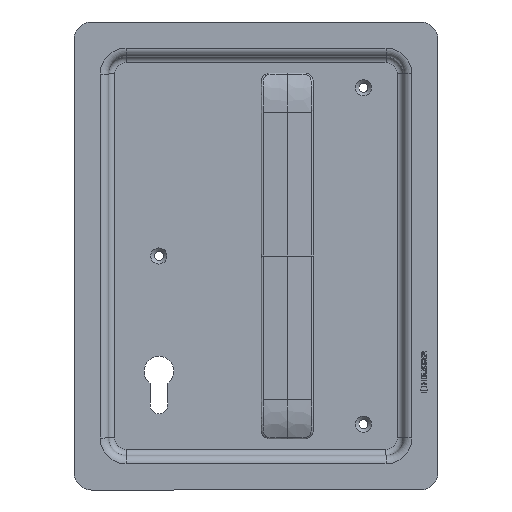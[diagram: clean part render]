
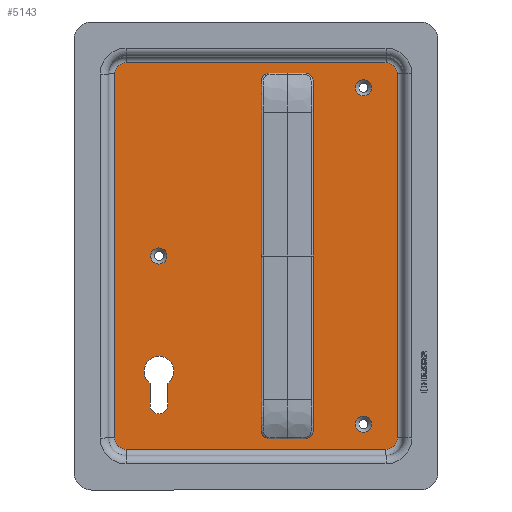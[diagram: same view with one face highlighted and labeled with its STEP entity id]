
A CAD part, front view. The second image highlights one B-rep face of the part: STEP entity #5143.
In plain terms, the highlighted planar face has unit normal (0, -1, 0) as drawn and (0, 0, -1) by its records, which use the part's own axes.
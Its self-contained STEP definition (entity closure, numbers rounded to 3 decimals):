
#403=FACE_BOUND('',#905,.T.);
#404=FACE_BOUND('',#906,.T.);
#405=FACE_BOUND('',#907,.T.);
#406=FACE_BOUND('',#908,.T.);
#407=FACE_BOUND('',#909,.T.);
#408=FACE_BOUND('',#910,.T.);
#409=FACE_BOUND('',#911,.T.);
#410=FACE_BOUND('',#912,.T.);
#465=PLANE('',#5579);
#593=FACE_OUTER_BOUND('',#904,.T.);
#904=EDGE_LOOP('',(#3558,#3559,#3560,#3561,#3562,#3563,#3564,#3565));
#905=EDGE_LOOP('',(#3566,#3567,#3568,#3569));
#906=EDGE_LOOP('',(#3570));
#907=EDGE_LOOP('',(#3571));
#908=EDGE_LOOP('',(#3572));
#909=EDGE_LOOP('',(#3573));
#910=EDGE_LOOP('',(#3574));
#911=EDGE_LOOP('',(#3575));
#912=EDGE_LOOP('',(#3576));
#1234=LINE('',#7120,#1659);
#1238=LINE('',#7130,#1663);
#1247=LINE('',#7189,#1672);
#1248=LINE('',#7193,#1673);
#1249=LINE('',#7197,#1674);
#1250=LINE('',#7201,#1675);
#1659=VECTOR('',#5935,10.);
#1663=VECTOR('',#5947,10.);
#1672=VECTOR('',#6016,10.);
#1673=VECTOR('',#6019,10.);
#1674=VECTOR('',#6022,10.);
#1675=VECTOR('',#6025,10.);
#2082=CIRCLE('',#5544,5.1);
#2084=CIRCLE('',#5548,8.6);
#2094=CIRCLE('',#5566,2.75);
#2096=CIRCLE('',#5569,2.75);
#2098=CIRCLE('',#5572,2.75);
#2100=CIRCLE('',#5575,2.75);
#2102=CIRCLE('',#5578,4.65);
#2103=CIRCLE('',#5580,6.5);
#2104=CIRCLE('',#5581,6.5);
#2105=CIRCLE('',#5582,6.5);
#2106=CIRCLE('',#5583,6.5);
#2107=CIRCLE('',#5584,4.65);
#2108=CIRCLE('',#5585,4.65);
#2215=VERTEX_POINT('',#7111);
#2216=VERTEX_POINT('',#7113);
#2218=VERTEX_POINT('',#7119);
#2220=VERTEX_POINT('',#7125);
#2230=VERTEX_POINT('',#7159);
#2232=VERTEX_POINT('',#7165);
#2234=VERTEX_POINT('',#7171);
#2236=VERTEX_POINT('',#7177);
#2238=VERTEX_POINT('',#7183);
#2239=VERTEX_POINT('',#7187);
#2240=VERTEX_POINT('',#7188);
#2241=VERTEX_POINT('',#7190);
#2242=VERTEX_POINT('',#7192);
#2243=VERTEX_POINT('',#7194);
#2244=VERTEX_POINT('',#7196);
#2245=VERTEX_POINT('',#7198);
#2246=VERTEX_POINT('',#7200);
#2247=VERTEX_POINT('',#7203);
#2248=VERTEX_POINT('',#7205);
#2720=EDGE_CURVE('',#2216,#2215,#2082,.T.);
#2723=EDGE_CURVE('',#2218,#2216,#1234,.T.);
#2726=EDGE_CURVE('',#2220,#2218,#2084,.T.);
#2729=EDGE_CURVE('',#2215,#2220,#1238,.T.);
#2742=EDGE_CURVE('',#2230,#2230,#2094,.T.);
#2745=EDGE_CURVE('',#2232,#2232,#2096,.T.);
#2748=EDGE_CURVE('',#2234,#2234,#2098,.T.);
#2751=EDGE_CURVE('',#2236,#2236,#2100,.T.);
#2754=EDGE_CURVE('',#2238,#2238,#2102,.T.);
#2756=EDGE_CURVE('',#2239,#2240,#1247,.T.);
#2757=EDGE_CURVE('',#2240,#2241,#2103,.T.);
#2758=EDGE_CURVE('',#2241,#2242,#1248,.T.);
#2759=EDGE_CURVE('',#2242,#2243,#2104,.T.);
#2760=EDGE_CURVE('',#2243,#2244,#1249,.T.);
#2761=EDGE_CURVE('',#2244,#2245,#2105,.T.);
#2762=EDGE_CURVE('',#2245,#2246,#1250,.T.);
#2763=EDGE_CURVE('',#2246,#2239,#2106,.T.);
#2764=EDGE_CURVE('',#2247,#2247,#2107,.T.);
#2765=EDGE_CURVE('',#2248,#2248,#2108,.T.);
#3558=ORIENTED_EDGE('',*,*,#2756,.T.);
#3559=ORIENTED_EDGE('',*,*,#2757,.T.);
#3560=ORIENTED_EDGE('',*,*,#2758,.T.);
#3561=ORIENTED_EDGE('',*,*,#2759,.T.);
#3562=ORIENTED_EDGE('',*,*,#2760,.T.);
#3563=ORIENTED_EDGE('',*,*,#2761,.T.);
#3564=ORIENTED_EDGE('',*,*,#2762,.T.);
#3565=ORIENTED_EDGE('',*,*,#2763,.T.);
#3566=ORIENTED_EDGE('',*,*,#2726,.T.);
#3567=ORIENTED_EDGE('',*,*,#2723,.T.);
#3568=ORIENTED_EDGE('',*,*,#2720,.T.);
#3569=ORIENTED_EDGE('',*,*,#2729,.T.);
#3570=ORIENTED_EDGE('',*,*,#2742,.T.);
#3571=ORIENTED_EDGE('',*,*,#2745,.T.);
#3572=ORIENTED_EDGE('',*,*,#2748,.T.);
#3573=ORIENTED_EDGE('',*,*,#2751,.T.);
#3574=ORIENTED_EDGE('',*,*,#2764,.F.);
#3575=ORIENTED_EDGE('',*,*,#2765,.F.);
#3576=ORIENTED_EDGE('',*,*,#2754,.F.);
#5143=ADVANCED_FACE('',(#593,#403,#404,#405,#406,#407,#408,#409,#410),#465, .F.);
#5544=AXIS2_PLACEMENT_3D('',#7114,#5929,#5930);
#5548=AXIS2_PLACEMENT_3D('',#7126,#5941,#5942);
#5566=AXIS2_PLACEMENT_3D('',#7160,#5983,#5984);
#5569=AXIS2_PLACEMENT_3D('',#7166,#5990,#5991);
#5572=AXIS2_PLACEMENT_3D('',#7172,#5997,#5998);
#5575=AXIS2_PLACEMENT_3D('',#7178,#6004,#6005);
#5578=AXIS2_PLACEMENT_3D('',#7184,#6011,#6012);
#5579=AXIS2_PLACEMENT_3D('',#7186,#6014,#6015);
#5580=AXIS2_PLACEMENT_3D('',#7191,#6017,#6018);
#5581=AXIS2_PLACEMENT_3D('',#7195,#6020,#6021);
#5582=AXIS2_PLACEMENT_3D('',#7199,#6023,#6024);
#5583=AXIS2_PLACEMENT_3D('',#7202,#6026,#6027);
#5584=AXIS2_PLACEMENT_3D('',#7204,#6028,#6029);
#5585=AXIS2_PLACEMENT_3D('',#7206,#6030,#6031);
#5929=DIRECTION('center_axis',(0.,0.,1.));
#5930=DIRECTION('ref_axis',(1.,0.,0.));
#5935=DIRECTION('',(0.,1.,0.));
#5941=DIRECTION('center_axis',(0.,0.,1.));
#5942=DIRECTION('ref_axis',(-0.593,-0.805,0.));
#5947=DIRECTION('',(0.,-1.,0.));
#5983=DIRECTION('center_axis',(0.,0.,1.));
#5984=DIRECTION('ref_axis',(1.,0.,0.));
#5990=DIRECTION('center_axis',(0.,0.,1.));
#5991=DIRECTION('ref_axis',(1.,0.,0.));
#5997=DIRECTION('center_axis',(0.,0.,1.));
#5998=DIRECTION('ref_axis',(1.,0.,0.));
#6004=DIRECTION('center_axis',(0.,0.,1.));
#6005=DIRECTION('ref_axis',(1.,0.,0.));
#6011=DIRECTION('center_axis',(0.,0.,-1.));
#6012=DIRECTION('ref_axis',(1.,0.,0.));
#6014=DIRECTION('center_axis',(0.,0.,1.));
#6015=DIRECTION('ref_axis',(1.,0.,0.));
#6016=DIRECTION('',(-1.,0.,0.));
#6017=DIRECTION('center_axis',(0.,0.,-1.));
#6018=DIRECTION('ref_axis',(-0.707,-0.707,0.));
#6019=DIRECTION('',(0.,1.,0.));
#6020=DIRECTION('center_axis',(0.,0.,-1.));
#6021=DIRECTION('ref_axis',(-0.707,0.707,0.));
#6022=DIRECTION('',(1.,0.,0.));
#6023=DIRECTION('center_axis',(0.,0.,-1.));
#6024=DIRECTION('ref_axis',(0.707,0.707,0.));
#6025=DIRECTION('',(0.,-1.,0.));
#6026=DIRECTION('center_axis',(0.,0.,-1.));
#6027=DIRECTION('ref_axis',(0.707,-0.707,0.));
#6028=DIRECTION('center_axis',(0.,0.,-1.));
#6029=DIRECTION('ref_axis',(1.,0.,0.));
#6030=DIRECTION('center_axis',(0.,0.,-1.));
#6031=DIRECTION('ref_axis',(1.,0.,0.));
#7111=CARTESIAN_POINT('',(-51.1,86.,42.));
#7113=CARTESIAN_POINT('',(-40.9,86.,42.));
#7114=CARTESIAN_POINT('Origin',(-46.,86.,42.));
#7119=CARTESIAN_POINT('',(-40.9,73.425,42.));
#7120=CARTESIAN_POINT('',(-40.901,36.713,42.));
#7125=CARTESIAN_POINT('',(-51.1,73.424,42.));
#7126=CARTESIAN_POINT('Origin',(-46.,66.5,42.));
#7130=CARTESIAN_POINT('',(-51.101,43.,42.));
#7159=CARTESIAN_POINT('',(17.75,98.,42.));
#7160=CARTESIAN_POINT('Origin',(20.5,98.,42.));
#7165=CARTESIAN_POINT('',(17.75,-98.,42.));
#7166=CARTESIAN_POINT('Origin',(20.5,-98.,42.));
#7171=CARTESIAN_POINT('',(32.75,-98.,42.));
#7172=CARTESIAN_POINT('Origin',(35.5,-98.,42.));
#7177=CARTESIAN_POINT('',(32.75,98.,42.));
#7178=CARTESIAN_POINT('Origin',(35.5,98.,42.));
#7183=CARTESIAN_POINT('',(67.35,97.,42.));
#7184=CARTESIAN_POINT('Origin',(72.,97.,42.));
#7186=CARTESIAN_POINT('Origin',(10.,0.,42.));
#7187=CARTESIAN_POINT('',(85.,-111.5,42.));
#7188=CARTESIAN_POINT('',(-65.,-111.5,42.));
#7189=CARTESIAN_POINT('',(47.5,-111.5,42.));
#7190=CARTESIAN_POINT('',(-71.5,-105.,42.));
#7191=CARTESIAN_POINT('Origin',(-65.,-105.,42.));
#7192=CARTESIAN_POINT('',(-71.5,105.,42.));
#7193=CARTESIAN_POINT('',(-71.5,-52.5,42.));
#7194=CARTESIAN_POINT('',(-65.,111.5,42.));
#7195=CARTESIAN_POINT('Origin',(-65.,105.,42.));
#7196=CARTESIAN_POINT('',(85.,111.5,42.));
#7197=CARTESIAN_POINT('',(-27.5,111.5,42.));
#7198=CARTESIAN_POINT('',(91.5,105.,42.));
#7199=CARTESIAN_POINT('Origin',(85.,105.,42.));
#7200=CARTESIAN_POINT('',(91.5,-105.,42.));
#7201=CARTESIAN_POINT('',(91.5,52.5,42.));
#7202=CARTESIAN_POINT('Origin',(85.,-105.,42.));
#7203=CARTESIAN_POINT('',(67.35,-97.,42.));
#7204=CARTESIAN_POINT('Origin',(72.,-97.,42.));
#7205=CARTESIAN_POINT('',(-50.65,0.,42.));
#7206=CARTESIAN_POINT('Origin',(-46.,0.,42.));
